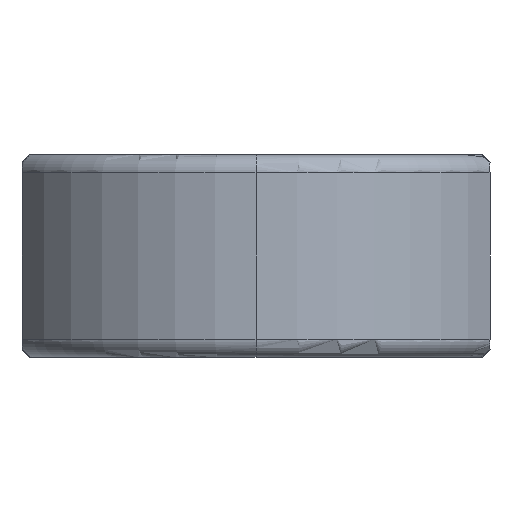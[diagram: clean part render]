
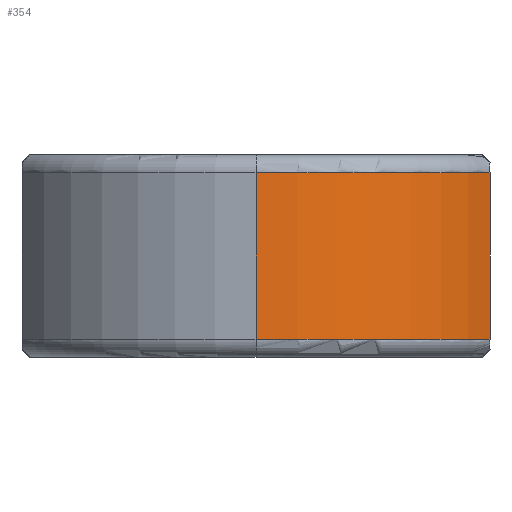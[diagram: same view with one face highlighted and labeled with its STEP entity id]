
A CAD part, left-side view. The second image highlights one B-rep face of the part: STEP entity #354.
In plain terms, the highlighted cylindrical face has radius 17 mm (diameter 34 mm), a partial arc.
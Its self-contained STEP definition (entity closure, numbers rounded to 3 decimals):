
#3 = CARTESIAN_POINT ( 'NONE',  ( -8., -15., 13. ) ) ;
#67 = CARTESIAN_POINT ( 'NONE',  ( -8., -15., 1.17 ) ) ;
#79 = EDGE_CURVE ( 'NONE', #1666, #964, #3098, .T. ) ;
#213 = AXIS2_PLACEMENT_3D ( 'NONE', #223, #509, #784 ) ;
#223 = CARTESIAN_POINT ( 'NONE',  ( 0., 0., 0. ) ) ;
#253 = CARTESIAN_POINT ( 'NONE',  ( -17., 0., 11.83 ) ) ;
#262 = DIRECTION ( 'NONE',  ( 0., 0., -1. ) ) ;
#308 = CYLINDRICAL_SURFACE ( 'NONE', #213, 17. ) ;
#340 = CARTESIAN_POINT ( 'NONE',  ( 0., 0., 11.83 ) ) ;
#354 = ADVANCED_FACE ( 'NONE', ( #824 ), #308, .T. ) ;
#355 = VERTEX_POINT ( 'NONE', #3162 ) ;
#427 = EDGE_CURVE ( 'NONE', #3031, #964, #2603, .T. ) ;
#474 = VECTOR ( 'NONE', #262, 1000. ) ;
#509 = DIRECTION ( 'NONE',  ( 0., 0., -1. ) ) ;
#543 = DIRECTION ( 'NONE',  ( 0., 0., -1. ) ) ;
#784 = DIRECTION ( 'NONE',  ( -1., 0., 0. ) ) ;
#824 = FACE_OUTER_BOUND ( 'NONE', #1475, .T. ) ;
#964 = VERTEX_POINT ( 'NONE', #2910 ) ;
#971 = LINE ( 'NONE', #3, #474 ) ;
#1095 = CARTESIAN_POINT ( 'NONE',  ( 0., 0., 1.17 ) ) ;
#1146 = EDGE_CURVE ( 'NONE', #355, #1666, #3006, .T. ) ;
#1374 = DIRECTION ( 'NONE',  ( -1., 0., 0. ) ) ;
#1475 = EDGE_LOOP ( 'NONE', ( #2033, #2831, #3370, #1541 ) ) ;
#1541 = ORIENTED_EDGE ( 'NONE', *, *, #2573, .F. ) ;
#1580 = AXIS2_PLACEMENT_3D ( 'NONE', #340, #2206, #2231 ) ;
#1666 = VERTEX_POINT ( 'NONE', #253 ) ;
#1914 = CARTESIAN_POINT ( 'NONE',  ( -17., 0., 0. ) ) ;
#2033 = ORIENTED_EDGE ( 'NONE', *, *, #1146, .T. ) ;
#2206 = DIRECTION ( 'NONE',  ( 0., 0., -1. ) ) ;
#2231 = DIRECTION ( 'NONE',  ( -1., 0., 0. ) ) ;
#2461 = DIRECTION ( 'NONE',  ( 0., 0., -1. ) ) ;
#2573 = EDGE_CURVE ( 'NONE', #355, #3031, #971, .T. ) ;
#2603 = CIRCLE ( 'NONE', #3379, 17. ) ;
#2831 = ORIENTED_EDGE ( 'NONE', *, *, #79, .T. ) ;
#2910 = CARTESIAN_POINT ( 'NONE',  ( -17., 0., 1.17 ) ) ;
#2969 = VECTOR ( 'NONE', #2461, 1000. ) ;
#3006 = CIRCLE ( 'NONE', #1580, 17. ) ;
#3031 = VERTEX_POINT ( 'NONE', #67 ) ;
#3098 = LINE ( 'NONE', #1914, #2969 ) ;
#3162 = CARTESIAN_POINT ( 'NONE',  ( -8., -15., 11.83 ) ) ;
#3370 = ORIENTED_EDGE ( 'NONE', *, *, #427, .F. ) ;
#3379 = AXIS2_PLACEMENT_3D ( 'NONE', #1095, #543, #1374 ) ;
